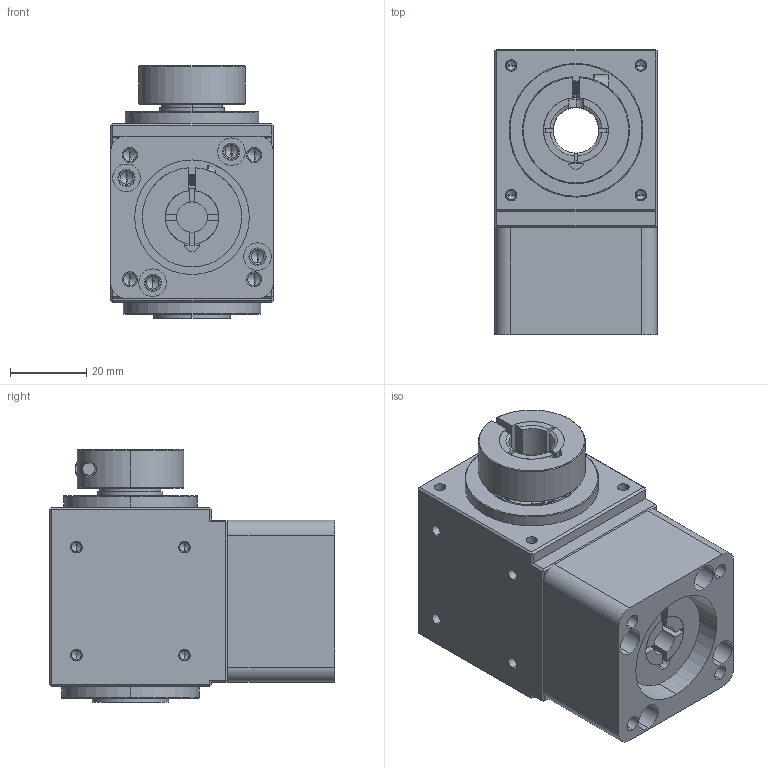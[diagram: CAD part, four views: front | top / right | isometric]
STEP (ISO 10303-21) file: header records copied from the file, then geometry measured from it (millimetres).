
FILE_DESCRIPTION (( 'STEP AP214' ), '1' );
FILE_NAME ('RH42-5(8-30-46-M4).STEP', '2018-12-05T04:11:54', ( '' ), ( '' ), 'SwSTEP 2.0', 'SolidWorks 2016', '' );
FILE_SCHEMA (( 'AUTOMOTIVE_DESIGN' ));
Length unit declared in the file: millimetre
Products named in the file (9): SN42-26x14x11-M4; R42-5-(8); R42-17x25x4; R42; RH42-28x17x10; RH42-(12x11-4x10); R42-5(30-46-M4); RH42-5(8-30-46-M4); R42-20x32x5
Assembly tree (8 placements, depth 2):
  RH42-5(8-30-46-M4)
    R42
    R42-5(30-46-M4)
    RH42-(12x11-4x10)
    R42-20x32x5
    R42-17x25x4
    SN42-26x14x11-M4
    R42-5-(8)
    RH42-28x17x10
Bounding box: 42.5 x 74.75 x 66 mm (x, y, z)
Volume: 100649.2 mm3; surface area: 51180.6 mm2
Topology: 10 solids, 10 shells, 754 faces, 1845 edges, 1116 vertices
Faces by surface type: cylinder 367, plane 169, cone 132, bspline 46, torus 40
Entity records: 45105 total; most frequent: CARTESIAN_POINT 26972, ORIENTED_EDGE 3578, DIRECTION 3353, EDGE_CURVE 1789, AXIS2_PLACEMENT_3D 1300, VERTEX_POINT 1116, EDGE_LOOP 849, FACE_OUTER_BOUND 754
